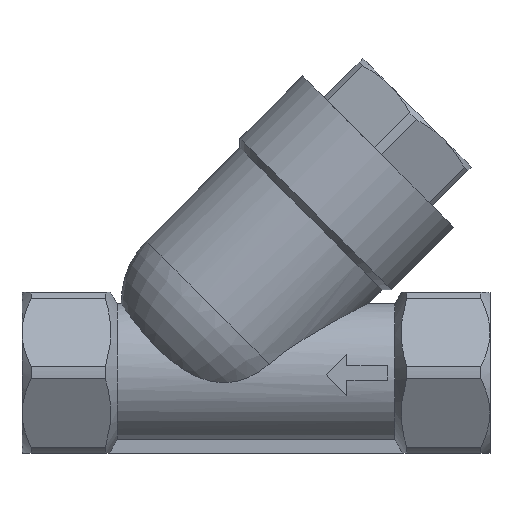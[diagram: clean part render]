
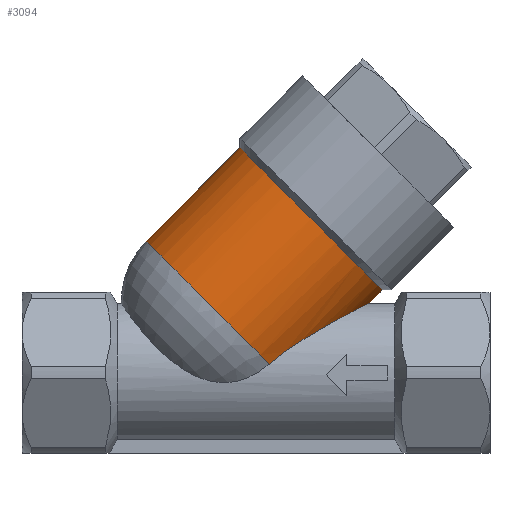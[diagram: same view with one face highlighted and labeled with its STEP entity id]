
A CAD part, top view. The second image highlights one B-rep face of the part: STEP entity #3094.
In plain terms, the highlighted cylindrical face has radius 13.75 mm (diameter 27.5 mm), a partial arc.
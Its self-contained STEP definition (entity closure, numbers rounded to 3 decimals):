
#20 = AXIS2_PLACEMENT_3D ( 'NONE', #70, #1380, #3137 ) ;
#70 = CARTESIAN_POINT ( 'NONE',  ( 22.021, 35.575, 0. ) ) ;
#116 = CARTESIAN_POINT ( 'NONE',  ( 3.07, 2.231, 9.248 ) ) ;
#130 = ORIENTED_EDGE ( 'NONE', *, *, #317, .T. ) ;
#147 = CARTESIAN_POINT ( 'NONE',  ( 1.802, 1.198, 9.424 ) ) ;
#239 = CARTESIAN_POINT ( 'NONE',  ( 14.394, 8.992, 3.083 ) ) ;
#253 = CARTESIAN_POINT ( 'NONE',  ( 4.376, 3.184, 8.964 ) ) ;
#317 = EDGE_CURVE ( 'NONE', #1661, #455, #2588, .T. ) ;
#343 = CARTESIAN_POINT ( 'NONE',  ( 2.427, 1.732, 9.356 ) ) ;
#369 = CARTESIAN_POINT ( 'NONE',  ( 8.396, 5.731, 7.592 ) ) ;
#381 = CARTESIAN_POINT ( 'NONE',  ( 13.916, 8.746, 3.725 ) ) ;
#422 = DIRECTION ( 'NONE',  ( 0.707, 0.707, 0. ) ) ;
#455 = VERTEX_POINT ( 'NONE', #726 ) ;
#659 = B_SPLINE_CURVE_WITH_KNOTS ( 'NONE', 3,
 ( #764, #858, #2604, #2375, #3145, #1739, #1652, #3107, #1259, #2775, #239, #381, #2420, #2717, #1401, #1914, #3064, #2898, #1233, #3049, #369, #675, #2226, #2084, #253, #116, #343, #147 ),
 .UNSPECIFIED., .F., .F.,
 ( 4, 2, 2, 2, 2, 2, 2, 2, 2, 2, 2, 2, 2, 4 ),
 ( 0.038, 0.038, 0.039, 0.039, 0.04, 0.041, 0.042, 0.044, 0.045, 0.047, 0.05, 0.052, 0.055, 0.057 ),
 .UNSPECIFIED. ) ;
#675 = CARTESIAN_POINT ( 'NONE',  ( 7.058, 4.929, 8.135 ) ) ;
#717 = CARTESIAN_POINT ( 'NONE',  ( -15., 18., 0. ) ) ;
#726 = CARTESIAN_POINT ( 'NONE',  ( 1.802, 1.198, 9.424 ) ) ;
#764 = CARTESIAN_POINT ( 'NONE',  ( 15.391, 9.5, 0. ) ) ;
#858 = CARTESIAN_POINT ( 'NONE',  ( 15.391, 9.5, 0.209 ) ) ;
#885 = ORIENTED_EDGE ( 'NONE', *, *, #2421, .T. ) ;
#982 = CYLINDRICAL_SURFACE ( 'NONE', #20, 13.75 ) ;
#1233 = CARTESIAN_POINT ( 'NONE',  ( 10.362, 6.85, 6.602 ) ) ;
#1259 = CARTESIAN_POINT ( 'NONE',  ( 14.884, 9.243, 2.203 ) ) ;
#1270 = CARTESIAN_POINT ( 'NONE',  ( 12.298, 45.298, 0. ) ) ;
#1273 = DIRECTION ( 'NONE',  ( 0.707, 0.707, 0. ) ) ;
#1380 = DIRECTION ( 'NONE',  ( 0.707, 0.707, 0. ) ) ;
#1401 = CARTESIAN_POINT ( 'NONE',  ( 12.832, 8.181, 4.839 ) ) ;
#1434 = ORIENTED_EDGE ( 'NONE', *, *, #1882, .F. ) ;
#1473 = VERTEX_POINT ( 'NONE', #3268 ) ;
#1502 = AXIS2_PLACEMENT_3D ( 'NONE', #1981, #422, #2224 ) ;
#1528 = CIRCLE ( 'NONE', #2924, 13.75 ) ;
#1652 = CARTESIAN_POINT ( 'NONE',  ( 15.116, 9.361, 1.634 ) ) ;
#1661 = VERTEX_POINT ( 'NONE', #717 ) ;
#1675 = EDGE_CURVE ( 'NONE', #1703, #455, #659, .T. ) ;
#1703 = VERTEX_POINT ( 'NONE', #3228 ) ;
#1739 = CARTESIAN_POINT ( 'NONE',  ( 15.18, 9.393, 1.435 ) ) ;
#1786 = DIRECTION ( 'NONE',  ( 0.707, 0.707, 0. ) ) ;
#1882 = EDGE_CURVE ( 'NONE', #3071, #1473, #1528, .T. ) ;
#1914 = CARTESIAN_POINT ( 'NONE',  ( 12.242, 7.868, 5.331 ) ) ;
#1981 = CARTESIAN_POINT ( 'NONE',  ( -5.277, 8.277, 0. ) ) ;
#2018 = DIRECTION ( 'NONE',  ( -0.707, 0.707, 0. ) ) ;
#2030 = EDGE_LOOP ( 'NONE', ( #2624, #885, #1434, #2162, #130 ) ) ;
#2065 = VECTOR ( 'NONE', #1273, 1000. ) ;
#2084 = CARTESIAN_POINT ( 'NONE',  ( 5.04, 3.637, 8.79 ) ) ;
#2162 = ORIENTED_EDGE ( 'NONE', *, *, #2934, .F. ) ;
#2224 = DIRECTION ( 'NONE',  ( -0.707, 0.707, 0. ) ) ;
#2226 = CARTESIAN_POINT ( 'NONE',  ( 6.381, 4.509, 8.376 ) ) ;
#2271 = CARTESIAN_POINT ( 'NONE',  ( 31.744, 25.853, 0. ) ) ;
#2338 = FACE_OUTER_BOUND ( 'NONE', #2030, .T. ) ;
#2375 = CARTESIAN_POINT ( 'NONE',  ( 15.323, 9.466, 0.832 ) ) ;
#2420 = CARTESIAN_POINT ( 'NONE',  ( 13.658, 8.613, 4.021 ) ) ;
#2421 = EDGE_CURVE ( 'NONE', #1703, #1473, #2940, .T. ) ;
#2588 = CIRCLE ( 'NONE', #1502, 13.75 ) ;
#2604 = CARTESIAN_POINT ( 'NONE',  ( 15.377, 9.493, 0.42 ) ) ;
#2624 = ORIENTED_EDGE ( 'NONE', *, *, #1675, .F. ) ;
#2655 = LINE ( 'NONE', #1270, #3251 ) ;
#2717 = CARTESIAN_POINT ( 'NONE',  ( 13.116, 8.33, 4.578 ) ) ;
#2775 = CARTESIAN_POINT ( 'NONE',  ( 14.61, 9.103, 2.744 ) ) ;
#2875 = CARTESIAN_POINT ( 'NONE',  ( 7.525, 21.08, 0. ) ) ;
#2898 = CARTESIAN_POINT ( 'NONE',  ( 11.003, 7.202, 6.22 ) ) ;
#2924 = AXIS2_PLACEMENT_3D ( 'NONE', #2875, #3084, #2018 ) ;
#2934 = EDGE_CURVE ( 'NONE', #1661, #3071, #2655, .T. ) ;
#2940 = LINE ( 'NONE', #2271, #2065 ) ;
#3049 = CARTESIAN_POINT ( 'NONE',  ( 9.059, 6.115, 7.288 ) ) ;
#3064 = CARTESIAN_POINT ( 'NONE',  ( 11.936, 7.705, 5.564 ) ) ;
#3071 = VERTEX_POINT ( 'NONE', #3130 ) ;
#3084 = DIRECTION ( 'NONE',  ( 0.707, 0.707, 0. ) ) ;
#3094 = ADVANCED_FACE ( 'NONE', ( #2338 ), #982, .T. ) ;
#3107 = CARTESIAN_POINT ( 'NONE',  ( 14.968, 9.285, 2.018 ) ) ;
#3130 = CARTESIAN_POINT ( 'NONE',  ( -2.198, 30.802, 0. ) ) ;
#3137 = DIRECTION ( 'NONE',  ( -0.707, 0.707, 0. ) ) ;
#3145 = CARTESIAN_POINT ( 'NONE',  ( 15.283, 9.446, 1.035 ) ) ;
#3228 = CARTESIAN_POINT ( 'NONE',  ( 15.391, 9.5, 0. ) ) ;
#3251 = VECTOR ( 'NONE', #1786, 1000. ) ;
#3268 = CARTESIAN_POINT ( 'NONE',  ( 17.248, 11.357, 0. ) ) ;
